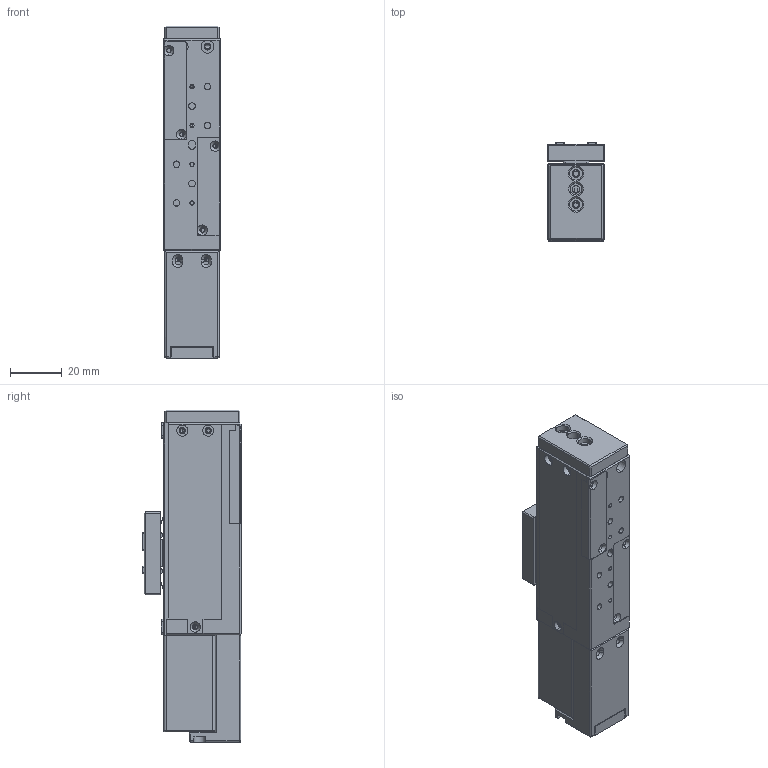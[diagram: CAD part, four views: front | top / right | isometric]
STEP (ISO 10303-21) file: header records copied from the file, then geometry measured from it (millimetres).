
FILE_DESCRIPTION (( 'STEP AP203' ), '1' );
FILE_NAME ('EMF20A38-B01P30.STEP', '2024-03-06T02:44:55', ( '' ), ( '' ), 'SwSTEP 2.0', 'SolidWorks 2023', '' );
FILE_SCHEMA (( 'CONFIG_CONTROL_DESIGN' ));
Length unit declared in the file: millimetre
Products named in the file (24): 28-42光电传感器; 0401螺母; 20分体轴承座; 20-30滑台侧板; 28-42端子线路板; 20防尘钢带压片; 20防尘盖板; 20-30防尘钢带底板; MGN7C-66滑轨; MGN7C 滑块; 20-30光电滑台基座; 20A38-GZ0401-82电机; EMF20A38-B01P30; 20前导光片; JFM-0304-5; 1-16滚针; 20光电防尘安装座; 20后导光片; 20轴承调节板; 20防尘安装板组件; 20-30防尘钢带; 20A38端子盖; 20滚轮; 20防尘安装板
Assembly tree (28 placements, depth 3):
  EMF20A38-B01P30
    20-30光电滑台基座
    MGN7C-66滑轨
    MGN7C 滑块
    20分体轴承座
    20轴承调节板
    20A38-GZ0401-82电机
    JFM-0304-5
    20-30滑台侧板  x2
    28-42光电传感器  x2
    20前导光片
    20后导光片
    20A38端子盖
    28-42端子线路板
    20光电防尘安装座
    0401螺母
    20-30防尘钢带底板
    20-30防尘钢带
    20防尘钢带压片  x2
    20防尘安装板组件
      20防尘安装板
      1-16滚针  x2
      20滚轮  x2
    20防尘盖板
Bounding box: 22 x 38 x 128.5 mm (x, y, z)
Volume: 54767.2 mm3; surface area: 49627.9 mm2
Topology: 27 solids, 27 shells, 1324 faces, 3664 edges, 2341 vertices
Faces by surface type: cylinder 645, plane 534, cone 114, torus 24, sphere 4, bspline 3
Entity records: 51631 total; most frequent: CARTESIAN_POINT 17138, ORIENTED_EDGE 6810, DIRECTION 6579, EDGE_CURVE 3405, AXIS2_PLACEMENT_3D 2321, VERTEX_POINT 2209, VECTOR 1937, LINE 1937
